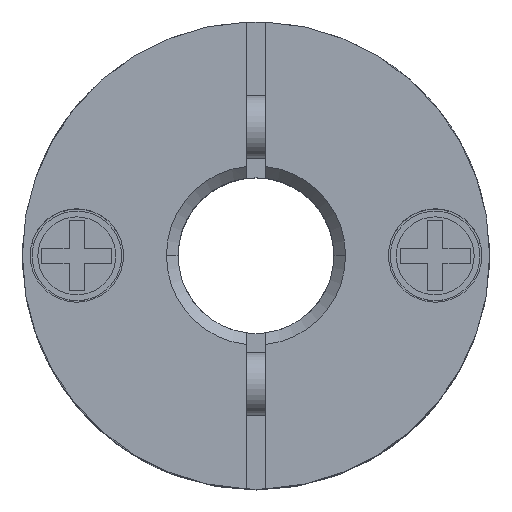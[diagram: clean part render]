
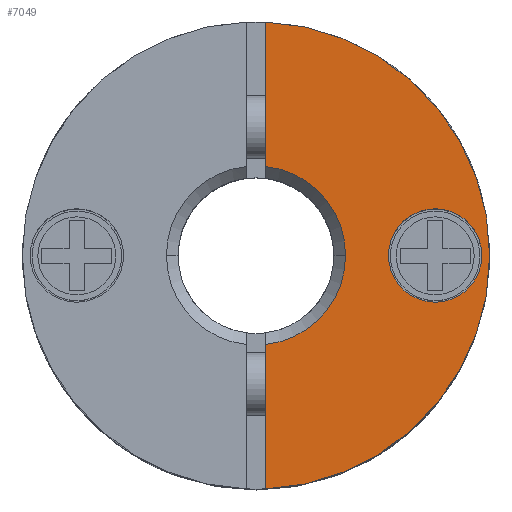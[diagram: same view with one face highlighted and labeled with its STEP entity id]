
A CAD part, top view. The second image highlights one B-rep face of the part: STEP entity #7049.
In plain terms, the highlighted planar face has unit normal (0, 0, 1).
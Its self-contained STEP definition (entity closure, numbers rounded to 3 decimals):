
#893=CARTESIAN_POINT('',(6.0,0.,6.2));
#894=VERTEX_POINT('',#893);
#901=CARTESIAN_POINT('',(0.25,-5.995,6.2));
#902=VERTEX_POINT('',#901);
#903=CARTESIAN_POINT('',(0.,0.,6.2));
#904=DIRECTION('',(0.0,0.0,-1.0));
#905=DIRECTION('',(-1.0,0.0,0.0));
#906=AXIS2_PLACEMENT_3D('',#903,#904,#905);
#907=CIRCLE('',#906,6.0);
#908=EDGE_CURVE('',#894,#902,#907,.T.);
#1104=CARTESIAN_POINT('',(2.3,0.,6.2));
#1105=VERTEX_POINT('',#1104);
#1113=CARTESIAN_POINT('',(0.25,-2.286,6.2));
#1114=VERTEX_POINT('',#1113);
#1128=CARTESIAN_POINT('',(0.,0.,6.2));
#1129=DIRECTION('',(0.0,0.0,1.0));
#1130=DIRECTION('',(1.0,0.0,0.0));
#1131=AXIS2_PLACEMENT_3D('',#1128,#1129,#1130);
#1132=CIRCLE('',#1131,2.3);
#1133=EDGE_CURVE('',#1114,#1105,#1132,.T.);
#1185=CARTESIAN_POINT('',(3.4,0.,6.2));
#1186=VERTEX_POINT('',#1185);
#1195=CARTESIAN_POINT('',(5.8,0.,6.2));
#1196=VERTEX_POINT('',#1195);
#1197=CARTESIAN_POINT('',(4.6,0.,6.2));
#1198=DIRECTION('',(0.0,0.0,-1.0));
#1199=DIRECTION('',(-1.0,0.0,0.0));
#1200=AXIS2_PLACEMENT_3D('',#1197,#1198,#1199);
#1201=CIRCLE('',#1200,1.2);
#1202=EDGE_CURVE('',#1196,#1186,#1201,.T.);
#6718=CARTESIAN_POINT('',(4.6,0.,6.2));
#6719=DIRECTION('',(0.0,0.0,-1.0));
#6720=DIRECTION('',(-1.0,0.0,0.0));
#6721=AXIS2_PLACEMENT_3D('',#6718,#6719,#6720);
#6722=CIRCLE('',#6721,1.2);
#6723=EDGE_CURVE('',#1186,#1196,#6722,.T.);
#6785=CARTESIAN_POINT('',(0.25,-2.286,6.2));
#6786=DIRECTION('',(0.0,-1.0,0.0));
#6787=VECTOR('',#6786,3.708);
#6788=LINE('',#6785,#6787);
#6789=EDGE_CURVE('',#1114,#902,#6788,.T.);
#6882=CARTESIAN_POINT('',(0.25,2.286,6.2));
#6883=VERTEX_POINT('',#6882);
#6897=CARTESIAN_POINT('',(0.25,5.995,6.2));
#6898=VERTEX_POINT('',#6897);
#6899=CARTESIAN_POINT('',(0.25,5.995,6.2));
#6900=DIRECTION('',(0.0,-1.0,0.0));
#6901=VECTOR('',#6900,3.708);
#6902=LINE('',#6899,#6901);
#6903=EDGE_CURVE('',#6898,#6883,#6902,.T.);
#7020=CARTESIAN_POINT('',(-0.545,0.,6.2));
#7021=DIRECTION('',(0.0,0.0,1.0));
#7022=DIRECTION('',(-1.0,0.0,0.0));
#7023=AXIS2_PLACEMENT_3D('',#7020,#7021,#7022);
#7024=PLANE('',#7023);
#7025=ORIENTED_EDGE('',*,*,#6903,.T.);
#7026=CARTESIAN_POINT('',(0.,0.,6.2));
#7027=DIRECTION('',(0.0,0.0,1.0));
#7028=DIRECTION('',(1.0,0.0,0.0));
#7029=AXIS2_PLACEMENT_3D('',#7026,#7027,#7028);
#7030=CIRCLE('',#7029,2.3);
#7031=EDGE_CURVE('',#1105,#6883,#7030,.T.);
#7032=ORIENTED_EDGE('',*,*,#7031,.F.);
#7033=ORIENTED_EDGE('',*,*,#1133,.F.);
#7034=ORIENTED_EDGE('',*,*,#6789,.T.);
#7035=ORIENTED_EDGE('',*,*,#908,.F.);
#7036=CARTESIAN_POINT('',(0.,0.,6.2));
#7037=DIRECTION('',(0.0,0.0,-1.0));
#7038=DIRECTION('',(-1.0,0.0,0.0));
#7039=AXIS2_PLACEMENT_3D('',#7036,#7037,#7038);
#7040=CIRCLE('',#7039,6.0);
#7041=EDGE_CURVE('',#6898,#894,#7040,.T.);
#7042=ORIENTED_EDGE('',*,*,#7041,.F.);
#7043=EDGE_LOOP('',(#7025,#7032,#7033,#7034,#7035,#7042));
#7044=FACE_OUTER_BOUND('',#7043,.T.);
#7045=ORIENTED_EDGE('',*,*,#6723,.T.);
#7046=ORIENTED_EDGE('',*,*,#1202,.T.);
#7047=EDGE_LOOP('',(#7045,#7046));
#7048=FACE_BOUND('',#7047,.T.);
#7049=ADVANCED_FACE('',(#7044,#7048),#7024,.T.);
